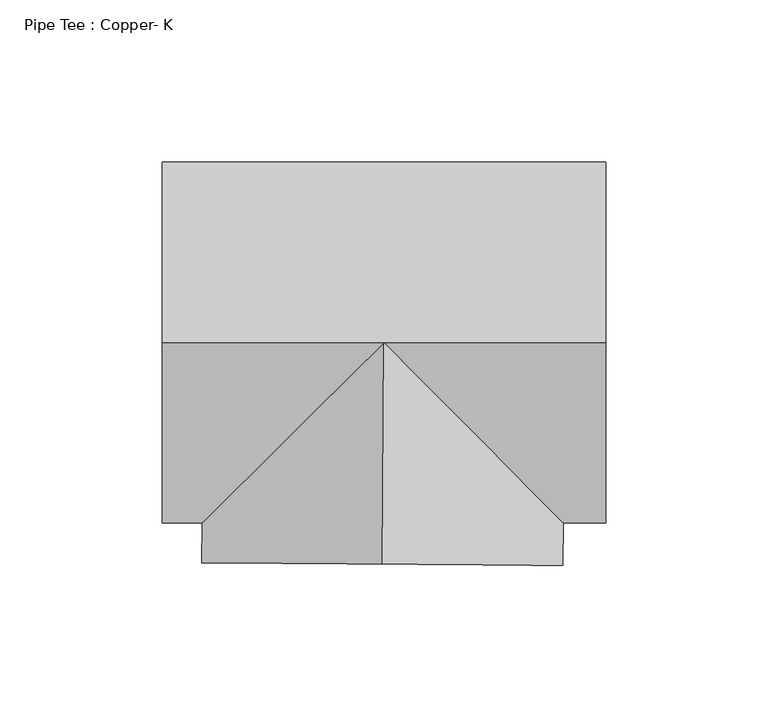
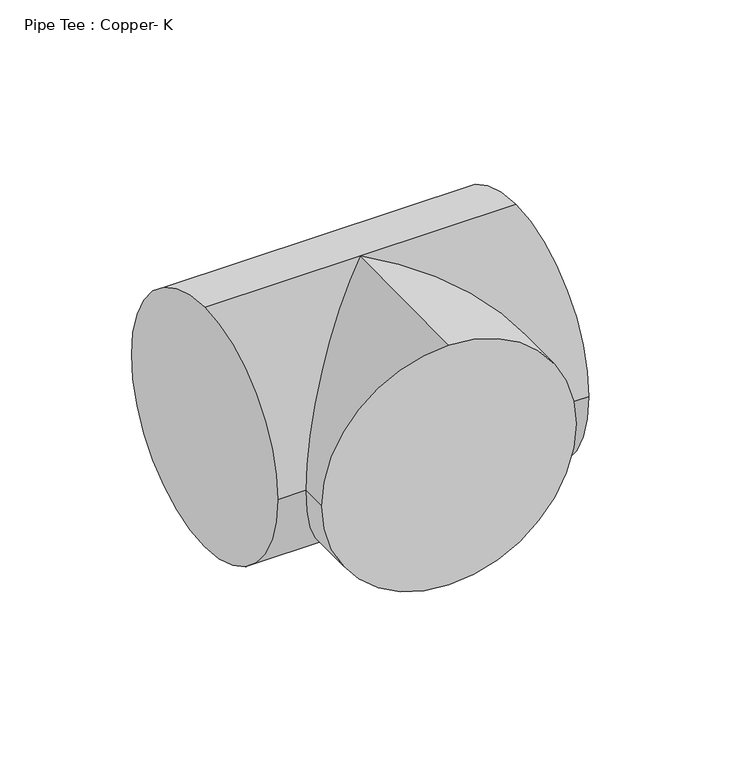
"""IFC4 building model written with IfcOpenShell, lengths in millimetres: pipe fitting geometry, Pipe Tee : Copper- K."""

from ifc_helpers import new_model, si_unit, frame, origin, place, context, project, spatial, circle_curve, ellipse_curve, source, transform, mapped, element, save
from ifc_brep_helpers import plane_surface, cylinder_surface, advanced_brep


def pipe_tee_copper_k_0a67c726(model_context):
    return source(origin(), model_context, "Body", "AdvancedBrep", [
        advanced_brep(
        [(-68.2625, 0.0, 55.5625), (-68.2625, 55.5625, 0.0), (-68.2625, 0.0, -55.5625), (-68.2625, -55.5625, 0.0), (68.2625, 0.0, 55.5625), (68.2625, -55.5625, 0.0), (68.2625, 0.0, -55.5625), (68.2625, 55.5625, 0.0), (0.0, 0.0, 55.5625), (0.0, 0.0, -55.5625), (-55.9649133, -55.5625, 0.0), (55.1629803, -55.5625, 0.0), (-0.4926031, -68.2607226, 55.5625), (-56.0536564, -67.8597665, 0.0), (-0.4926031, -68.2607226, -55.5625), (55.0684501, -68.6616786, 0.0)],
        [
            (0, 1, circle_curve(frame((-68.2625, 0.0, 0.0), z_axis=(-1.0, 0.0, 0.0), x_axis=(0.0, 1.0, 0.0)), 55.5625)),
            (1, 2, circle_curve(frame((-68.2625, 0.0, 0.0), z_axis=(-1.0, 0.0, 0.0), x_axis=(0.0, 1.0, 0.0)), 55.5625)),
            (2, 3, circle_curve(frame((-68.2625, 0.0, 0.0), z_axis=(-1.0, 0.0, 0.0), x_axis=(0.0, 1.0, 0.0)), 55.5625)),
            (3, 0, circle_curve(frame((-68.2625, 0.0, 0.0), z_axis=(-1.0, 0.0, 0.0), x_axis=(0.0, 1.0, 0.0)), 55.5625)),
            (4, 5, circle_curve(frame((68.2625, 0.0, 0.0), z_axis=(1.0, 0.0, 0.0), x_axis=(0.0, 1.0, 0.0)), 55.5625)),
            (5, 6, circle_curve(frame((68.2625, 0.0, 0.0), z_axis=(1.0, 0.0, 0.0), x_axis=(0.0, 1.0, 0.0)), 55.5625)),
            (6, 7, circle_curve(frame((68.2625, 0.0, 0.0), z_axis=(1.0, 0.0, 0.0), x_axis=(0.0, 1.0, 0.0)), 55.5625)),
            (7, 4, circle_curve(frame((68.2625, 0.0, 0.0), z_axis=(1.0, 0.0, 0.0), x_axis=(0.0, 1.0, 0.0)), 55.5625)),
            (0, 8),
            (8, 4),
            (7, 1),
            (6, 9),
            (9, 2),
            (9, 10, ellipse_curve(frame((0.0, 0.0, 0.0), z_axis=(-0.70455081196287, 0.7096535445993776, 0.0), x_axis=(-0.7096535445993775, -0.70455081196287, 0.0)), 78.8623036, 55.5625)),
            (10, 3),
            (5, 11),
            (11, 9, ellipse_curve(frame((0.0, 0.0, 0.0), z_axis=(0.7096535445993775, 0.70455081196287, 0.0), x_axis=(-0.7045508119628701, 0.7096535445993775, 0.0)), 78.2952476, 55.5625)),
            (10, 8, ellipse_curve(frame((0.0, 0.0, 0.0), z_axis=(-0.70455081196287, 0.7096535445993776, 0.0), x_axis=(-0.7096535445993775, -0.70455081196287, 0.0)), 78.8623036, 55.5625)),
            (8, 11, ellipse_curve(frame((0.0, 0.0, 0.0), z_axis=(0.7096535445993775, 0.70455081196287, 0.0), x_axis=(-0.7045508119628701, 0.7096535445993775, 0.0)), 78.2952476, 55.5625)),
            (12, 13, circle_curve(frame((-0.4926031, -68.2607226, 0.0), z_axis=(-0.007216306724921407, -0.9999739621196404, 0.0), x_axis=(0.9999739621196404, -0.007216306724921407, 0.0)), 55.5625)),
            (13, 14, circle_curve(frame((-0.4926031, -68.2607226, 0.0), z_axis=(-0.007216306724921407, -0.9999739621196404, 0.0), x_axis=(0.9999739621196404, -0.007216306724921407, 0.0)), 55.5625)),
            (14, 15, circle_curve(frame((-0.4926031, -68.2607226, 0.0), z_axis=(-0.007216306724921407, -0.9999739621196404, 0.0), x_axis=(0.9999739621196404, -0.007216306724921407, 0.0)), 55.5625)),
            (15, 12, circle_curve(frame((-0.4926031, -68.2607226, 0.0), z_axis=(-0.007216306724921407, -0.9999739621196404, 0.0), x_axis=(0.9999739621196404, -0.007216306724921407, 0.0)), 55.5625)),
            (15, 11),
            (8, 12),
            (14, 9),
            (13, 10),
        ],
        [
            plane_surface(frame((-68.2625, 0.0, 0.0), z_axis=(-1.0, 0.0, 0.0), x_axis=(0.0, 0.0, 1.0))),
            plane_surface(frame((68.2625, 0.0, 0.0), z_axis=(1.0, 0.0, 0.0), x_axis=(0.0, 0.0, 1.0))),
            cylinder_surface(frame((-68.2625, 0.0, 0.0), z_axis=(-1.0, 0.0, 0.0), x_axis=(0.0, 1.0, 0.0)), 55.5625),
            plane_surface(frame((-0.4926031, -68.2607226, 0.0), z_axis=(-0.007216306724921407, -0.9999739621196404, 0.0), x_axis=(0.0, 0.0, 1.0))),
            cylinder_surface(frame((0.0, 0.0, 0.0), z_axis=(0.007216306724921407, 0.9999739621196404, 0.0), x_axis=(0.9999739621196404, -0.007216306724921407, 0.0)), 55.5625),
        ],
        [
            (0, [[1, 2, 3, 4]]),
            (1, [[5, 6, 7, 8]]),
            (2, [[-1, 9, 10, -8, 11]]),
            (2, [[-2, -11, -7, 12, 13]]),
            (2, [[-3, -13, 14, 15]]),
            (2, [[-6, 16, 17, -12]]),
            (2, [[-4, -15, 18, -9]]),
            (2, [[-5, -10, 19, -16]]),
            (3, [[20, 21, 22, 23]]),
            (4, [[-23, 24, -19, 25]]),
            (4, [[-22, 26, -17, -24]]),
            (4, [[-21, 27, -14, -26]]),
            (4, [[-20, -25, -18, -27]]),
        ],
    ),
        advanced_brep(
        [(-68.2625, 0.0, 55.5625), (-68.2625, 55.5625, 0.0), (-68.2625, 0.0, -55.5625), (-68.2625, -55.5625, 0.0), (68.2625, 0.0, 55.5625), (68.2625, -55.5625, 0.0), (68.2625, 0.0, -55.5625), (68.2625, 55.5625, 0.0), (0.0, 0.0, 55.5625), (0.0, 0.0, -55.5625), (-55.9649133, -55.5625, 0.0), (55.1629803, -55.5625, 0.0), (-0.4926031, -68.2607226, 55.5625), (-56.0536564, -67.8597665, 0.0), (-0.4926031, -68.2607226, -55.5625), (55.0684501, -68.6616786, 0.0)],
        [
            (0, 1, circle_curve(frame((-68.2625, 0.0, 0.0), z_axis=(-1.0, 0.0, 0.0), x_axis=(0.0, 1.0, 0.0)), 55.5625)),
            (1, 2, circle_curve(frame((-68.2625, 0.0, 0.0), z_axis=(-1.0, 0.0, 0.0), x_axis=(0.0, 1.0, 0.0)), 55.5625)),
            (2, 3, circle_curve(frame((-68.2625, 0.0, 0.0), z_axis=(-1.0, 0.0, 0.0), x_axis=(0.0, 1.0, 0.0)), 55.5625)),
            (3, 0, circle_curve(frame((-68.2625, 0.0, 0.0), z_axis=(-1.0, 0.0, 0.0), x_axis=(0.0, 1.0, 0.0)), 55.5625)),
            (4, 5, circle_curve(frame((68.2625, 0.0, 0.0), z_axis=(1.0, 0.0, 0.0), x_axis=(0.0, 1.0, 0.0)), 55.5625)),
            (5, 6, circle_curve(frame((68.2625, 0.0, 0.0), z_axis=(1.0, 0.0, 0.0), x_axis=(0.0, 1.0, 0.0)), 55.5625)),
            (6, 7, circle_curve(frame((68.2625, 0.0, 0.0), z_axis=(1.0, 0.0, 0.0), x_axis=(0.0, 1.0, 0.0)), 55.5625)),
            (7, 4, circle_curve(frame((68.2625, 0.0, 0.0), z_axis=(1.0, 0.0, 0.0), x_axis=(0.0, 1.0, 0.0)), 55.5625)),
            (0, 8),
            (8, 4),
            (7, 1),
            (6, 9),
            (9, 2),
            (9, 10, ellipse_curve(frame((0.0, 0.0, 0.0), z_axis=(-0.7045508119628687, 0.7096535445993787, 0.0), x_axis=(-0.7096535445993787, -0.7045508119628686, 0.0)), 78.8623036, 55.5625)),
            (10, 3),
            (5, 11),
            (11, 9, ellipse_curve(frame((0.0, 0.0, 0.0), z_axis=(0.7096535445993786, 0.7045508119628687, 0.0), x_axis=(-0.7045508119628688, 0.7096535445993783, 0.0)), 78.2952476, 55.5625)),
            (10, 8, ellipse_curve(frame((0.0, 0.0, 0.0), z_axis=(-0.7045508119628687, 0.7096535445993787, 0.0), x_axis=(-0.7096535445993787, -0.7045508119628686, 0.0)), 78.8623036, 55.5625)),
            (8, 11, ellipse_curve(frame((0.0, 0.0, 0.0), z_axis=(0.7096535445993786, 0.7045508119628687, 0.0), x_axis=(-0.7045508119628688, 0.7096535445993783, 0.0)), 78.2952476, 55.5625)),
            (12, 13, circle_curve(frame((-0.4926031, -68.2607226, 0.0), z_axis=(-0.007216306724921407, -0.9999739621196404, 0.0), x_axis=(0.9999739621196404, -0.007216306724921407, 0.0)), 55.5625)),
            (13, 14, circle_curve(frame((-0.4926031, -68.2607226, 0.0), z_axis=(-0.007216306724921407, -0.9999739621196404, 0.0), x_axis=(0.9999739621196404, -0.007216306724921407, 0.0)), 55.5625)),
            (14, 15, circle_curve(frame((-0.4926031, -68.2607226, 0.0), z_axis=(-0.007216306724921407, -0.9999739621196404, 0.0), x_axis=(0.9999739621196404, -0.007216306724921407, 0.0)), 55.5625)),
            (15, 12, circle_curve(frame((-0.4926031, -68.2607226, 0.0), z_axis=(-0.007216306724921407, -0.9999739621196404, 0.0), x_axis=(0.9999739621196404, -0.007216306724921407, 0.0)), 55.5625)),
            (15, 11),
            (8, 12),
            (14, 9),
            (13, 10),
        ],
        [
            plane_surface(frame((-68.2625, 0.0, 0.0), z_axis=(-1.0, 0.0, 0.0), x_axis=(0.0, 0.0, 1.0))),
            plane_surface(frame((68.2625, 0.0, 0.0), z_axis=(1.0, 0.0, 0.0), x_axis=(0.0, 0.0, 1.0))),
            cylinder_surface(frame((-68.2625, 0.0, 0.0), z_axis=(-1.0, 0.0, 0.0), x_axis=(0.0, 1.0, 0.0)), 55.5625),
            plane_surface(frame((-0.4926031, -68.2607226, 0.0), z_axis=(-0.007216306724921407, -0.9999739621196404, 0.0), x_axis=(0.0, 0.0, 1.0))),
            cylinder_surface(frame((0.0, 0.0, 0.0), z_axis=(0.007216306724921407, 0.9999739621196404, 0.0), x_axis=(0.9999739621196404, -0.007216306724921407, 0.0)), 55.5625),
        ],
        [
            (0, [[1, 2, 3, 4]]),
            (1, [[5, 6, 7, 8]]),
            (2, [[-1, 9, 10, -8, 11]]),
            (2, [[-2, -11, -7, 12, 13]]),
            (2, [[-3, -13, 14, 15]]),
            (2, [[-6, 16, 17, -12]]),
            (2, [[-4, -15, 18, -9]]),
            (2, [[-5, -10, 19, -16]]),
            (3, [[20, 21, 22, 23]]),
            (4, [[-23, 24, -19, 25]]),
            (4, [[-22, 26, -17, -24]]),
            (4, [[-21, 27, -14, -26]]),
            (4, [[-20, -25, -18, -27]]),
        ],
    ),
    ])


if __name__ == "__main__":
    model = new_model("IFC4")
    model_context = context("Model", 3, world=origin())
    ifc_project = project(units=[si_unit("LENGTHUNIT", "METRE", prefix="MILLI")], contexts=[model_context])
    site = spatial("IfcSite", under=ifc_project)
    building = spatial("IfcBuilding", under=site)
    placement = place(None, origin())
    pipe_tee_copper_k_shape = pipe_tee_copper_k_0a67c726(model_context)
    element("IfcPipeFitting", 1, ObjectType="Pipe Tee : Copper- K", at=placement, inside=building, context=model_context, shape_type="MappedRepresentation", body=[
        mapped(pipe_tee_copper_k_shape, transform((0.0, 0.0, 0.0), x_axis=(1.0, 0.0, 0.0), y_axis=(0.0, 1.0, 0.0), z_axis=(0.0, 0.0, 1.0))),
    ])
    save(model, "model.ifc")
